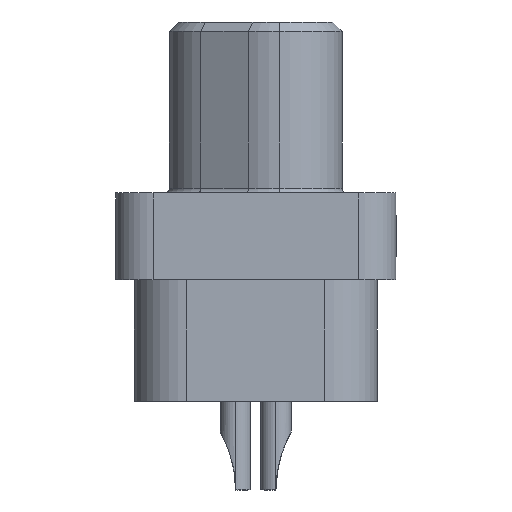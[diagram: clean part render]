
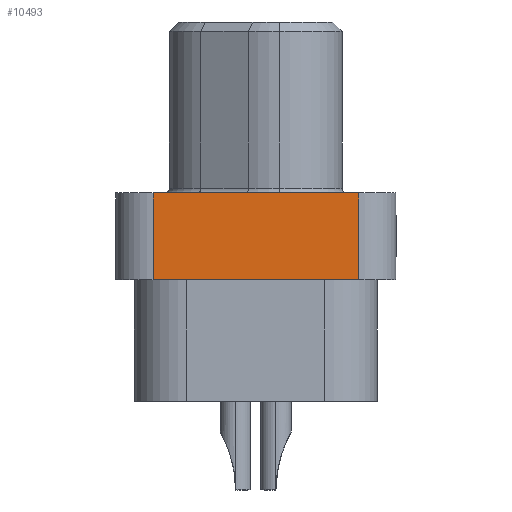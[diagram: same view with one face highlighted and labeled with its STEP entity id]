
A CAD part, left-side view. The second image highlights one B-rep face of the part: STEP entity #10493.
In plain terms, the highlighted planar face has unit normal (-1, 0, 0).
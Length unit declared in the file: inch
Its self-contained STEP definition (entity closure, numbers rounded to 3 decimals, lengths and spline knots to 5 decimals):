
#3041 = LINE ( 'NONE', #26279, #3045 ) ;
#3045 = VECTOR ( 'NONE', #26286, 39.37008 ) ;
#3230 = LINE ( 'NONE', #16230, #3235 ) ;
#3234 = LINE ( 'NONE', #16239, #3237 ) ;
#3235 = VECTOR ( 'NONE', #16238, 39.37008 ) ;
#3237 = VECTOR ( 'NONE', #16240, 39.37008 ) ;
#3247 = LINE ( 'NONE', #16305, #3251 ) ;
#3251 = VECTOR ( 'NONE', #16312, 39.37008 ) ;
#7441 = EDGE_LOOP ( 'NONE', ( #20038, #20036, #20034, #20031 ) ) ;
#7695 = VERTEX_POINT ( 'NONE', #22929 ) ;
#7702 = VERTEX_POINT ( 'NONE', #22917 ) ;
#7753 = VERTEX_POINT ( 'NONE', #13388 ) ;
#7777 = VERTEX_POINT ( 'NONE', #13487 ) ;
#10493 = ADVANCED_FACE ( 'NONE', ( #11087 ), #14459, .T. ) ;
#11087 = FACE_OUTER_BOUND ( 'NONE', #7441, .T. ) ;
#13388 = CARTESIAN_POINT ( 'NONE',  ( -0.5875, 0.11, -0.051 ) ) ;
#13487 = CARTESIAN_POINT ( 'NONE',  ( -0.5875, -0.11, 0.042 ) ) ;
#14455 = DIRECTION ( 'NONE',  ( 0., 0., 1. ) ) ;
#14456 = DIRECTION ( 'NONE',  ( -1., 0., 0. ) ) ;
#14459 = PLANE ( 'NONE',  #24094 ) ;
#14467 = CARTESIAN_POINT ( 'NONE',  ( -0.5875, -0.11, 0.042 ) ) ;
#16230 = CARTESIAN_POINT ( 'NONE',  ( -0.5875, -0.11, 0.042 ) ) ;
#16238 = DIRECTION ( 'NONE',  ( 0., 0., -1. ) ) ;
#16239 = CARTESIAN_POINT ( 'NONE',  ( -0.5875, 0.11, 0.042 ) ) ;
#16240 = DIRECTION ( 'NONE',  ( 0., 0., -1. ) ) ;
#16305 = CARTESIAN_POINT ( 'NONE',  ( -0.5875, -0.11, -0.051 ) ) ;
#16312 = DIRECTION ( 'NONE',  ( 0., 1., 0. ) ) ;
#20031 = ORIENTED_EDGE ( 'NONE', *, *, #27294, .T. ) ;
#20034 = ORIENTED_EDGE ( 'NONE', *, *, #27186, .T. ) ;
#20036 = ORIENTED_EDGE ( 'NONE', *, *, #27293, .F. ) ;
#20038 = ORIENTED_EDGE ( 'NONE', *, *, #27304, .F. ) ;
#22917 = CARTESIAN_POINT ( 'NONE',  ( -0.5875, 0.11, 0.042 ) ) ;
#22929 = CARTESIAN_POINT ( 'NONE',  ( -0.5875, -0.11, -0.051 ) ) ;
#24094 = AXIS2_PLACEMENT_3D ( 'NONE', #14467, #14456, #14455 ) ;
#26279 = CARTESIAN_POINT ( 'NONE',  ( -0.5875, -0.11, 0.042 ) ) ;
#26286 = DIRECTION ( 'NONE',  ( 0., 1., 0. ) ) ;
#27186 = EDGE_CURVE ( 'NONE', #7777, #7702, #3041, .T. ) ;
#27293 = EDGE_CURVE ( 'NONE', #7777, #7695, #3230, .T. ) ;
#27294 = EDGE_CURVE ( 'NONE', #7702, #7753, #3234, .T. ) ;
#27304 = EDGE_CURVE ( 'NONE', #7695, #7753, #3247, .T. ) ;
